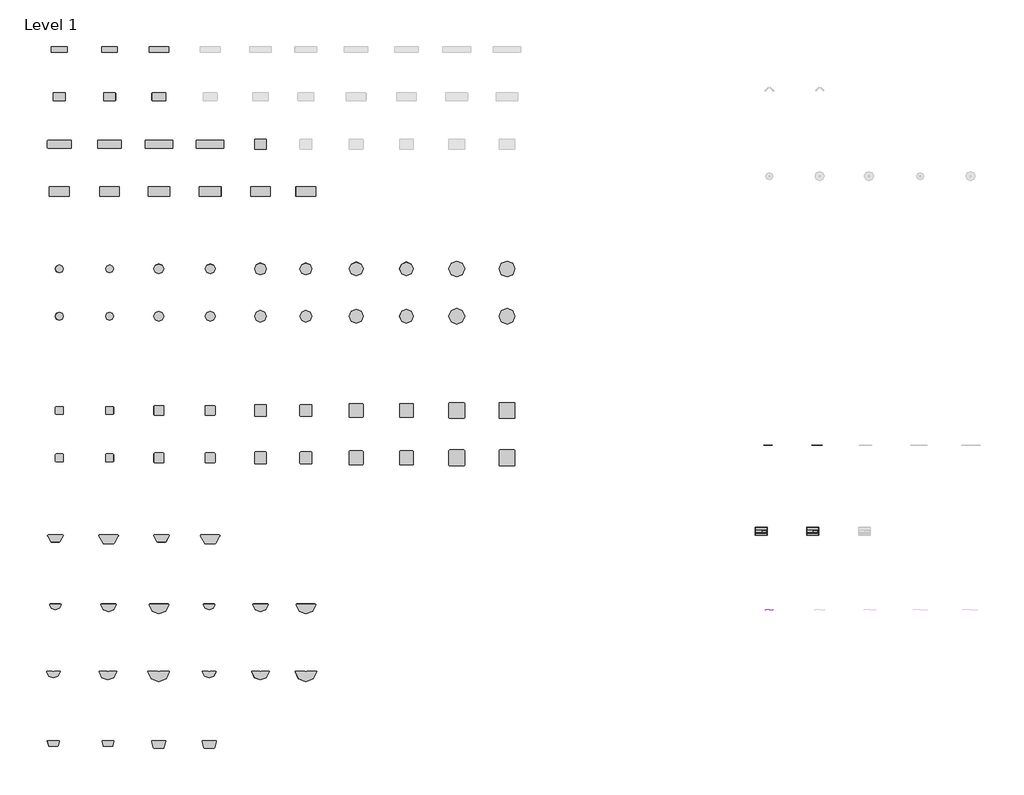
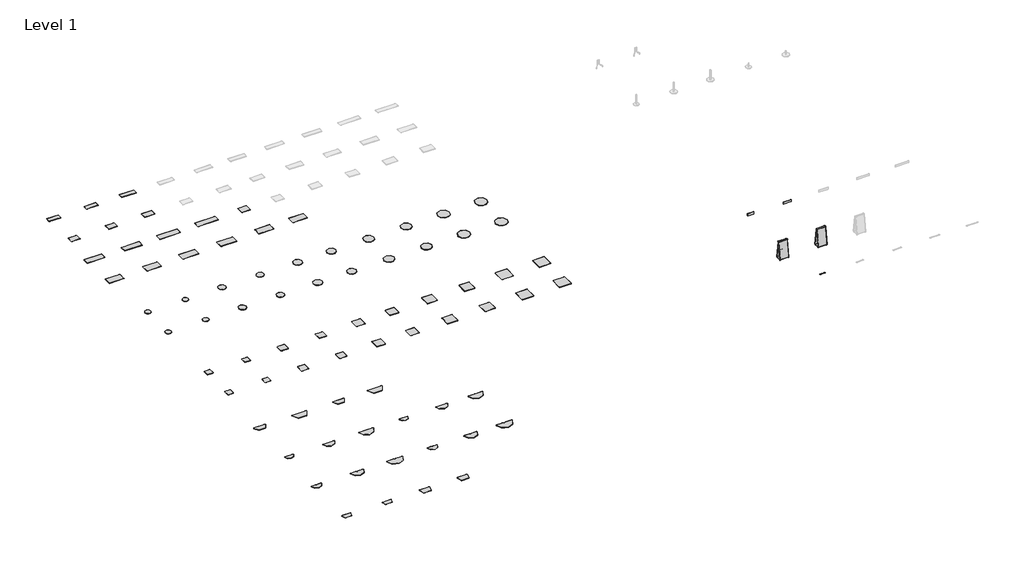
# One storey, part 1 of 2: 82 furniture elements.
"""IFC4 building model written with IfcOpenShell, lengths in millimetres."""

from ifc_helpers import new_model, si_unit, origin, place, context, project, spatial, transform, mapped, element, save
from components import furniture_22a0fb12, furniture_dde260d6, furniture_15fa902d, furniture_0da8b664, furniture_ad01e5af, furniture_995549ce, furniture_02dcd6cb, furniture_3c9f8f3f, furniture_cd082a74, furniture_e3076a92, furniture_453c43cd, furniture_d2ee572e, furniture_9cbd6c0b, furniture_f40bed82, furniture_707d9fb9, furniture_5754c508, furniture_3a9b2a28, furniture_975a626c, furniture_00c87b9d, furniture_1_1_8thickness_24_w_lpl_78b4d6fc, furniture_1_1_8thickness_30w_hpl_c077e206, furniture_1_1_8thickness_36w_hpl_82e7e8d1, furniture_1_1_8thickness_42_w_lpl_af455e16, furniture_1_1_8thickness_48w_hpl_af9b5860, furniture_1_1_8thickness_x_24dia_hpl_15a3ba9e, furniture_1_1_8thickness_x_30dia_hpl_ab5fbdb1, furniture_1_1_8thickness_x_36dia_hpl_6dad2c2d, furniture_1_1_8thickness_x_42dia_hpl_65cc382c, furniture_1_1_8thickness_x_48dia_hpl_ef60ed02, furniture_1_3_8thickness_24w_hpl_7b9c1fa5, furniture_1_3_8thickness_30w_hpl_81533f82, furniture_1_3_8thickness_36w_hpl_a2e24731, furniture_1_3_8thickness_42w_hpl_310ea54f, furniture_1_3_8thickness_48w_hpl_64231320, furniture_1_3_8thickness_x_24dia_hpl_9d86332b, furniture_1_3_8thickness_x_30dia_hpl_53064dcf, furniture_1_3_8thickness_x_36dia_hpl_1ba58830, furniture_1_3_8thickness_x_42dia_hpl_e79e7d92, furniture_1_3_8thickness_x_48dia_hpl_3c3fdf40, furniture_24w_8317a860, furniture_25_5_8w_bb100e75, furniture_31_5_8w_bd3e6728, markerboard_both_sides_742e3653

model = new_model("IFC4")

# Units and contexts
model_context = context("Model", 3, world=origin())
ifc_project = project(units=[si_unit("LENGTHUNIT", "METRE", prefix="MILLI")], contexts=[model_context])

# Site, building, storey
site = spatial("IfcSite", under=ifc_project)
building = spatial("IfcBuilding", under=site)
storey = spatial("IfcBuildingStorey", under=building, Name="Level 1", Elevation=0.0)

# Furniture
placement = place(None, origin())
furniture_shape = furniture_22a0fb12(model_context)
element("IfcFurniture", 1, ObjectType="Steelcase - Groupwork - Table - Top - Rectangular : 30D x 60W - LPL", at=placement, inside=storey, context=model_context, shape_type="MappedRepresentation", body=[
    mapped(furniture_shape, transform((778078.7766429, -27868.2236672, 0.0), x_axis=(1.0, 0.0, 0.0), y_axis=(0.0, 1.0, 0.0), z_axis=(0.0, 0.0, 1.0))),
])
element("IfcFurniture", 2, ObjectType="Steelcase - Groupwork - Table - Top - Rectangular : 30D x 60W - HPL", at=placement, inside=storey, context=model_context, shape_type="MappedRepresentation", body=[
    mapped(furniture_shape, transform((774192.5766429, -27868.2236672, 0.0), x_axis=(1.0, 0.0, 0.0), y_axis=(0.0, 1.0, 0.0), z_axis=(0.0, 0.0, 1.0))),
])
furniture_2_shape = furniture_dde260d6(model_context)
element("IfcFurniture", 3, ObjectType="Steelcase - Groupwork - Table - Top - Rectangular : 18D x 48W - HPL", at=placement, inside=storey, context=model_context, shape_type="MappedRepresentation", body=[
    mapped(furniture_2_shape, transform((774192.5766429, -16895.4236672, 0.0), x_axis=(1.0, 0.0, 0.0), y_axis=(0.0, 1.0, 0.0), z_axis=(0.0, 0.0, 1.0))),
])
furniture_3_shape = furniture_15fa902d(model_context)
element("IfcFurniture", 4, ObjectType="Steelcase - Groupwork - Table - Top - Rectangular : 18D x 60W - HPL", at=placement, inside=storey, context=model_context, shape_type="MappedRepresentation", body=[
    mapped(furniture_3_shape, transform((781888.7766429, -16895.4236672, 0.0), x_axis=(1.0, 0.0, 0.0), y_axis=(0.0, 1.0, 0.0), z_axis=(0.0, 0.0, 1.0))),
])
furniture_4_shape = furniture_0da8b664(model_context)
element("IfcFurniture", 5, ObjectType="Steelcase - Groupwork - Table - Top - Rectangular : 24D x 36W - HPL", at=placement, inside=storey, context=model_context, shape_type="MappedRepresentation", body=[
    mapped(furniture_4_shape, transform((774192.5766429, -20553.0236672, 0.0), x_axis=(1.0, 0.0, 0.0), y_axis=(0.0, 1.0, 0.0), z_axis=(0.0, 0.0, 1.0))),
])
furniture_5_shape = furniture_ad01e5af(model_context)
element("IfcFurniture", 6, ObjectType="Steelcase - Groupwork - Table - Top - Rectangular : 24D x 42W - HPL", at=placement, inside=storey, context=model_context, shape_type="MappedRepresentation", body=[
    mapped(furniture_5_shape, transform((781888.7766429, -20553.0236672, 0.0), x_axis=(1.0, 0.0, 0.0), y_axis=(0.0, 1.0, 0.0), z_axis=(0.0, 0.0, 1.0))),
])
furniture_6_shape = furniture_995549ce(model_context)
element("IfcFurniture", 7, ObjectType="Steelcase - Groupwork - Table - Top - Rectangular : 24D x 72W - HPL", at=placement, inside=storey, context=model_context, shape_type="MappedRepresentation", body=[
    mapped(furniture_6_shape, transform((774192.5766429, -24210.6236672, 0.0), x_axis=(1.0, 0.0, 0.0), y_axis=(0.0, 1.0, 0.0), z_axis=(0.0, 0.0, 1.0))),
])
furniture_7_shape = furniture_02dcd6cb(model_context)
element("IfcFurniture", 8, ObjectType="Steelcase - Groupwork - Table - Top - Rectangular : 24D x 84W - HPL", at=placement, inside=storey, context=model_context, shape_type="MappedRepresentation", body=[
    mapped(furniture_7_shape, transform((781888.7766429, -24210.6236672, 0.0), x_axis=(1.0, 0.0, 0.0), y_axis=(0.0, 1.0, 0.0), z_axis=(0.0, 0.0, 1.0))),
])
furniture_8_shape = furniture_3c9f8f3f(model_context)
element("IfcFurniture", 9, ObjectType="Steelcase - Groupwork - Table - Top - Rectangular : 30D x 66W - HPL", at=placement, inside=storey, context=model_context, shape_type="MappedRepresentation", body=[
    mapped(furniture_8_shape, transform((781888.7766429, -27868.2236672, 0.0), x_axis=(1.0, 0.0, 0.0), y_axis=(0.0, 1.0, 0.0), z_axis=(0.0, 0.0, 1.0))),
])
element("IfcFurniture", 10, ObjectType="Steelcase - Groupwork - Table - Top - Rectangular : 30D x 72W - HPL", at=placement, inside=storey, context=model_context, shape_type="MappedRepresentation", body=[
    mapped(furniture_shape, transform((789737.3766429, -27868.2236672, 0.0), x_axis=(1.0, 0.0, 0.0), y_axis=(0.0, 1.0, 0.0), z_axis=(0.0, 0.0, 1.0))),
])
element("IfcFurniture", 11, ObjectType="Steelcase - Groupwork - Table - Top - Rectangular : 18D x 48W - LPL", at=placement, inside=storey, context=model_context, shape_type="MappedRepresentation", body=[
    mapped(furniture_2_shape, transform((778078.7766429, -16895.4236672, 0.0), x_axis=(1.0, 0.0, 0.0), y_axis=(0.0, 1.0, 0.0), z_axis=(0.0, 0.0, 1.0))),
])
element("IfcFurniture", 12, ObjectType="Steelcase - Groupwork - Table - Top - Rectangular : 24D x 36W - LPL", at=placement, inside=storey, context=model_context, shape_type="MappedRepresentation", body=[
    mapped(furniture_4_shape, transform((778078.7766429, -20553.0236672, 0.0), x_axis=(1.0, 0.0, 0.0), y_axis=(0.0, 1.0, 0.0), z_axis=(0.0, 0.0, 1.0))),
])
element("IfcFurniture", 13, ObjectType="Steelcase - Groupwork - Table - Top - Rectangular : 24D x 72W - LPL", at=placement, inside=storey, context=model_context, shape_type="MappedRepresentation", body=[
    mapped(furniture_6_shape, transform((778078.7766429, -24210.6236672, 0.0), x_axis=(1.0, 0.0, 0.0), y_axis=(0.0, 1.0, 0.0), z_axis=(0.0, 0.0, 1.0))),
])
element("IfcFurniture", 14, ObjectType="Steelcase - Groupwork - Table - Top - Rectangular : 24D x 84W - LPL", at=placement, inside=storey, context=model_context, shape_type="MappedRepresentation", body=[
    mapped(furniture_7_shape, transform((785851.1766429, -24210.6236672, 0.0), x_axis=(1.0, 0.0, 0.0), y_axis=(0.0, 1.0, 0.0), z_axis=(0.0, 0.0, 1.0))),
])
element("IfcFurniture", 15, ObjectType="Steelcase - Groupwork - Table - Top - Rectangular : 30D x 66W - LPL", at=placement, inside=storey, context=model_context, shape_type="MappedRepresentation", body=[
    mapped(furniture_8_shape, transform((785851.1766429, -27868.2236672, 0.0), x_axis=(1.0, 0.0, 0.0), y_axis=(0.0, 1.0, 0.0), z_axis=(0.0, 0.0, 1.0))),
])
element("IfcFurniture", 16, ObjectType="Steelcase - Groupwork - Table - Top - Rectangular : 30D x 72W - LPL", at=placement, inside=storey, context=model_context, shape_type="MappedRepresentation", body=[
    mapped(furniture_shape, transform((793242.5766429, -27868.2236672, 0.0), x_axis=(1.0, 0.0, 0.0), y_axis=(0.0, 1.0, 0.0), z_axis=(0.0, 0.0, 1.0))),
])
furniture_9_shape = furniture_cd082a74(model_context)
element("IfcFurniture", 17, ObjectType="Steelcase - Groupwork - Table - Top - Rectangular : 30D x 36W - HPL", at=placement, inside=storey, context=model_context, shape_type="MappedRepresentation", body=[
    mapped(furniture_9_shape, transform((789737.3766429, -24210.6236672, 0.0), x_axis=(1.0, 0.0, 0.0), y_axis=(0.0, 1.0, 0.0), z_axis=(0.0, 0.0, 1.0))),
])
furniture_10_shape = furniture_e3076a92(model_context)
element("IfcFurniture", 18, ObjectType="Steelcase - Groupwork - Table - Top - Trapezoid : 21 3/8D x 48W - LPL", at=placement, inside=storey, context=model_context, shape_type="MappedRepresentation", body=[
    mapped(furniture_10_shape, transform((773249.7766429, -54403.2858647, 0.0), x_axis=(1.0, 0.0, 0.0), y_axis=(0.0, 1.0, 0.0), z_axis=(0.0, 0.0, 1.0))),
])
furniture_11_shape = furniture_453c43cd(model_context)
element("IfcFurniture", 19, ObjectType="Steelcase - Groupwork - Table - Top - Trapezoid : 26 1/2D x 60W - LPL", at=placement, inside=storey, context=model_context, shape_type="MappedRepresentation", body=[
    mapped(furniture_11_shape, transform((777212.1766429, -54403.2858647, 0.0), x_axis=(1.0, 0.0, 0.0), y_axis=(0.0, 1.0, 0.0), z_axis=(0.0, 0.0, 1.0))),
])
furniture_12_shape = furniture_d2ee572e(model_context)
element("IfcFurniture", 20, ObjectType="Steelcase - Groupwork - Table - Top - Half Round with Cutout : 27D x 54W - LPL", at=placement, inside=storey, context=model_context, shape_type="MappedRepresentation", body=[
    mapped(furniture_12_shape, transform((777920.2124075, -64918.8858647, 0.0), x_axis=(1.0, 0.0, 0.0), y_axis=(0.0, 1.0, 0.0), z_axis=(0.0, 0.0, 1.0))),
])
furniture_13_shape = furniture_9cbd6c0b(model_context)
element("IfcFurniture", 21, ObjectType="Steelcase - Groupwork - Table - Top - Half Round with Cutout : 21D x 42W - LPL", at=placement, inside=storey, context=model_context, shape_type="MappedRepresentation", body=[
    mapped(furniture_13_shape, transform((773706.9766429, -64918.8858647, 0.0), x_axis=(1.0, 0.0, 0.0), y_axis=(0.0, 1.0, 0.0), z_axis=(0.0, 0.0, 1.0))),
])
furniture_14_shape = furniture_f40bed82(model_context)
element("IfcFurniture", 22, ObjectType="Steelcase - Groupwork - Table - Top - Half Round with Cutout : 33D x 66W - LPL", at=placement, inside=storey, context=model_context, shape_type="MappedRepresentation", body=[
    mapped(furniture_14_shape, transform((781841.4107899, -64918.8858647, 0.0), x_axis=(1.0, 0.0, 0.0), y_axis=(0.0, 1.0, 0.0), z_axis=(0.0, 0.0, 1.0))),
])
element("IfcFurniture", 23, ObjectType="Steelcase - Groupwork - Table - Top - Trapezoid : 26 1/2D x 60W - HPL", at=placement, inside=storey, context=model_context, shape_type="MappedRepresentation", body=[
    mapped(furniture_11_shape, transform((785057.3804905, -54403.2858647, 0.0), x_axis=(1.0, 0.0, 0.0), y_axis=(0.0, 1.0, 0.0), z_axis=(0.0, 0.0, 1.0))),
])
element("IfcFurniture", 24, ObjectType="Steelcase - Groupwork - Table - Top - Trapezoid : 21 3/8D x 48W - HPL", at=placement, inside=storey, context=model_context, shape_type="MappedRepresentation", body=[
    mapped(furniture_10_shape, transform((781445.4075553, -54403.2858647, 0.0), x_axis=(1.0, 0.0, 0.0), y_axis=(0.0, 1.0, 0.0), z_axis=(0.0, 0.0, 1.0))),
])
furniture_15_shape = furniture_707d9fb9(model_context)
element("IfcFurniture", 25, ObjectType="Steelcase - Groupwork - Table - Top - Half Round : 30D x 60W - LPL", at=placement, inside=storey, context=model_context, shape_type="MappedRepresentation", body=[
    mapped(furniture_15_shape, transform((793214.1766429, -59740.3338647, 0.0), x_axis=(1.0, 0.0, 0.0), y_axis=(0.0, 1.0, 0.0), z_axis=(0.0, 0.0, 1.0))),
])
furniture_16_shape = furniture_5754c508(model_context)
element("IfcFurniture", 26, ObjectType="Steelcase - Groupwork - Table - Top - Half Round : 24D x 48W - LPL", at=placement, inside=storey, context=model_context, shape_type="MappedRepresentation", body=[
    mapped(furniture_16_shape, transform((789708.9766429, -59740.3338647, 0.0), x_axis=(1.0, 0.0, 0.0), y_axis=(0.0, 1.0, 0.0), z_axis=(0.0, 0.0, 1.0))),
])
furniture_17_shape = furniture_3a9b2a28(model_context)
element("IfcFurniture", 27, ObjectType="Steelcase - Groupwork - Table - Top - Half Round : 18D x 36W - LPL", at=placement, inside=storey, context=model_context, shape_type="MappedRepresentation", body=[
    mapped(furniture_17_shape, transform((785746.5766429, -59740.3338647, 0.0), x_axis=(1.0, 0.0, 0.0), y_axis=(0.0, 1.0, 0.0), z_axis=(0.0, 0.0, 1.0))),
])
element("IfcFurniture", 28, ObjectType="Steelcase - Groupwork - Table - Top - Half Round with Cutout : 33D x 66W - HPL", at=placement, inside=storey, context=model_context, shape_type="MappedRepresentation", body=[
    mapped(furniture_14_shape, transform((793214.1766429, -64918.8858647, 0.0), x_axis=(1.0, 0.0, 0.0), y_axis=(0.0, 1.0, 0.0), z_axis=(0.0, 0.0, 1.0))),
])
element("IfcFurniture", 29, ObjectType="Steelcase - Groupwork - Table - Top - Half Round with Cutout : 27D x 54W - HPL", at=placement, inside=storey, context=model_context, shape_type="MappedRepresentation", body=[
    mapped(furniture_12_shape, transform((789708.9766429, -64918.8858647, 0.0), x_axis=(1.0, 0.0, 0.0), y_axis=(0.0, 1.0, 0.0), z_axis=(0.0, 0.0, 1.0))),
])
element("IfcFurniture", 30, ObjectType="Steelcase - Groupwork - Table - Top - Half Round with Cutout : 21D x 42W - HPL", at=placement, inside=storey, context=model_context, shape_type="MappedRepresentation", body=[
    mapped(furniture_13_shape, transform((785746.5766429, -64918.8858647, 0.0), x_axis=(1.0, 0.0, 0.0), y_axis=(0.0, 1.0, 0.0), z_axis=(0.0, 0.0, 1.0))),
])
furniture_18_shape = furniture_975a626c(model_context)
element("IfcFurniture", 31, ObjectType="Steelcase - Groupwork - Table - Top - Personal : 24D x 42W - HPL", at=placement, inside=storey, context=model_context, shape_type="MappedRepresentation", body=[
    mapped(furniture_18_shape, transform((781306.5489354, -70252.8858647, 0.0), x_axis=(1.0, 0.0, 0.0), y_axis=(0.0, 1.0, 0.0), z_axis=(0.0, 0.0, 1.0))),
])
furniture_19_shape = furniture_00c87b9d(model_context)
element("IfcFurniture", 32, ObjectType="Steelcase - Groupwork - Table - Top - Personal : 18D x 36W - HPL", at=placement, inside=storey, context=model_context, shape_type="MappedRepresentation", body=[
    mapped(furniture_19_shape, transform((773172.1147884, -70252.8858647, 0.0), x_axis=(1.0, 0.0, 0.0), y_axis=(0.0, 1.0, 0.0), z_axis=(0.0, 0.0, 1.0))),
])
element("IfcFurniture", 33, ObjectType="Steelcase - Groupwork - Table - Top - Personal : 24D x 42W - LPL", at=placement, inside=storey, context=model_context, shape_type="MappedRepresentation", body=[
    mapped(furniture_18_shape, transform((785211.7147884, -70252.8858647, 0.0), x_axis=(1.0, 0.0, 0.0), y_axis=(0.0, 1.0, 0.0), z_axis=(0.0, 0.0, 1.0))),
])
element("IfcFurniture", 34, ObjectType="Steelcase - Groupwork - Table - Top - Personal : 18D x 36W - LPL", at=placement, inside=storey, context=model_context, shape_type="MappedRepresentation", body=[
    mapped(furniture_19_shape, transform((777385.350553, -70252.8858647, 0.0), x_axis=(1.0, 0.0, 0.0), y_axis=(0.0, 1.0, 0.0), z_axis=(0.0, 0.0, 1.0))),
])
element("IfcFurniture", 35, ObjectType="Steelcase - Groupwork - Table - Top - Half Round : 18D x 36W - HPL", at=placement, inside=storey, context=model_context, shape_type="MappedRepresentation", body=[
    mapped(furniture_17_shape, transform((773859.3766429, -59740.3338647, 0.0), x_axis=(1.0, 0.0, 0.0), y_axis=(0.0, 1.0, 0.0), z_axis=(0.0, 0.0, 1.0))),
])
element("IfcFurniture", 36, ObjectType="Steelcase - Groupwork - Table - Top - Half Round : 24D x 48W - HPL", at=placement, inside=storey, context=model_context, shape_type="MappedRepresentation", body=[
    mapped(furniture_16_shape, transform((777974.1766429, -59740.3338647, 0.0), x_axis=(1.0, 0.0, 0.0), y_axis=(0.0, 1.0, 0.0), z_axis=(0.0, 0.0, 1.0))),
])
element("IfcFurniture", 37, ObjectType="Steelcase - Groupwork - Table - Top - Half Round : 30D x 60W - HPL", at=placement, inside=storey, context=model_context, shape_type="MappedRepresentation", body=[
    mapped(furniture_15_shape, transform((781860.3766429, -59740.3338647, 0.0), x_axis=(1.0, 0.0, 0.0), y_axis=(0.0, 1.0, 0.0), z_axis=(0.0, 0.0, 1.0))),
])
furniture_1_1_8thickness_24_w_lpl_shape = furniture_1_1_8thickness_24_w_lpl_78b4d6fc(model_context)
element("IfcFurniture", 38, ObjectType="Steelcase - Groupwork - Table - Top - Square : 1 1/8Thickness - 24 W - LPL", at=placement, inside=storey, context=model_context, shape_type="MappedRepresentation", body=[
    mapped(furniture_1_1_8thickness_24_w_lpl_shape, transform((778078.7766429, -44788.7229199, 0.0), x_axis=(1.0, 0.0, 0.0), y_axis=(0.0, 1.0, 0.0), z_axis=(0.0, 0.0, 1.0))),
])
element("IfcFurniture", 39, ObjectType="Steelcase - Groupwork - Table - Top - Square : 1 1/8Thickness - 24W - HPL", at=placement, inside=storey, context=model_context, shape_type="MappedRepresentation", body=[
    mapped(furniture_1_1_8thickness_24_w_lpl_shape, transform((774192.5766429, -44788.7229199, 0.0), x_axis=(1.0, 0.0, 0.0), y_axis=(0.0, 1.0, 0.0), z_axis=(0.0, 0.0, 1.0))),
])
furniture_1_1_8thickness_30w_hpl_shape = furniture_1_1_8thickness_30w_hpl_c077e206(model_context)
element("IfcFurniture", 40, ObjectType="Steelcase - Groupwork - Table - Top - Square : 1 1/8Thickness - 30W - HPL", at=placement, inside=storey, context=model_context, shape_type="MappedRepresentation", body=[
    mapped(furniture_1_1_8thickness_30w_hpl_shape, transform((781888.7766429, -44788.7229199, 0.0), x_axis=(1.0, 0.0, 0.0), y_axis=(0.0, 1.0, 0.0), z_axis=(0.0, 0.0, 1.0))),
])
element("IfcFurniture", 41, ObjectType="Steelcase - Groupwork - Table - Top - Square : 1 1/8Thickness - 30W - LPL", at=placement, inside=storey, context=model_context, shape_type="MappedRepresentation", body=[
    mapped(furniture_1_1_8thickness_30w_hpl_shape, transform((785851.1766429, -44788.7229199, 0.0), x_axis=(1.0, 0.0, 0.0), y_axis=(0.0, 1.0, 0.0), z_axis=(0.0, 0.0, 1.0))),
])
furniture_1_1_8thickness_36w_hpl_shape = furniture_1_1_8thickness_36w_hpl_82e7e8d1(model_context)
element("IfcFurniture", 42, ObjectType="Steelcase - Groupwork - Table - Top - Square : 1 1/8Thickness - 36W - HPL", at=placement, inside=storey, context=model_context, shape_type="MappedRepresentation", body=[
    mapped(furniture_1_1_8thickness_36w_hpl_shape, transform((789737.3766429, -44788.7229199, 0.0), x_axis=(1.0, 0.0, 0.0), y_axis=(0.0, 1.0, 0.0), z_axis=(0.0, 0.0, 1.0))),
])
element("IfcFurniture", 43, ObjectType="Steelcase - Groupwork - Table - Top - Square : 1 1/8Thickness - 36W - LPL", at=placement, inside=storey, context=model_context, shape_type="MappedRepresentation", body=[
    mapped(furniture_1_1_8thickness_36w_hpl_shape, transform((793242.5766429, -44788.7229199, 0.0), x_axis=(1.0, 0.0, 0.0), y_axis=(0.0, 1.0, 0.0), z_axis=(0.0, 0.0, 1.0))),
])
furniture_1_1_8thickness_42_w_lpl_shape = furniture_1_1_8thickness_42_w_lpl_af455e16(model_context)
element("IfcFurniture", 44, ObjectType="Steelcase - Groupwork - Table - Top - Square : 1 1/8Thickness - 42 W - LPL", at=placement, inside=storey, context=model_context, shape_type="MappedRepresentation", body=[
    mapped(furniture_1_1_8thickness_42_w_lpl_shape, transform((801014.9766429, -44788.7229199, 0.0), x_axis=(1.0, 0.0, 0.0), y_axis=(0.0, 1.0, 0.0), z_axis=(0.0, 0.0, 1.0))),
])
element("IfcFurniture", 45, ObjectType="Steelcase - Groupwork - Table - Top - Square : 1 1/8Thickness - 42W - HPL", at=placement, inside=storey, context=model_context, shape_type="MappedRepresentation", body=[
    mapped(furniture_1_1_8thickness_42_w_lpl_shape, transform((797128.7766429, -44788.7229199, 0.0), x_axis=(1.0, 0.0, 0.0), y_axis=(0.0, 1.0, 0.0), z_axis=(0.0, 0.0, 1.0))),
])
furniture_1_1_8thickness_48w_hpl_shape = furniture_1_1_8thickness_48w_hpl_af9b5860(model_context)
element("IfcFurniture", 46, ObjectType="Steelcase - Groupwork - Table - Top - Square : 1 1/8Thickness - 48W - HPL", at=placement, inside=storey, context=model_context, shape_type="MappedRepresentation", body=[
    mapped(furniture_1_1_8thickness_48w_hpl_shape, transform((804901.1766429, -44788.7229199, 0.0), x_axis=(1.0, 0.0, 0.0), y_axis=(0.0, 1.0, 0.0), z_axis=(0.0, 0.0, 1.0))),
])
element("IfcFurniture", 47, ObjectType="Steelcase - Groupwork - Table - Top - Square : 1 1/8Thickness - 48W - LPL", at=placement, inside=storey, context=model_context, shape_type="MappedRepresentation", body=[
    mapped(furniture_1_1_8thickness_48w_hpl_shape, transform((808787.3766429, -44788.7229199, 0.0), x_axis=(1.0, 0.0, 0.0), y_axis=(0.0, 1.0, 0.0), z_axis=(0.0, 0.0, 1.0))),
])
furniture_1_1_8thickness_x_24dia_hpl_shape = furniture_1_1_8thickness_x_24dia_hpl_15a3ba9e(model_context)
element("IfcFurniture", 48, ObjectType="Steelcase - Groupwork - Table - Top - Round : 1 1/8Thickness x 24dia - HPL", at=placement, inside=storey, context=model_context, shape_type="MappedRepresentation", body=[
    mapped(furniture_1_1_8thickness_x_24dia_hpl_shape, transform((774164.1766429, -33850.4492936, 0.0), x_axis=(1.0, 0.0, 0.0), y_axis=(0.0, 1.0, 0.0), z_axis=(0.0, 0.0, 1.0))),
])
element("IfcFurniture", 49, ObjectType="Steelcase - Groupwork - Table - Top - Round : 1 1/8Thickness x 24dia - LPL", at=placement, inside=storey, context=model_context, shape_type="MappedRepresentation", body=[
    mapped(furniture_1_1_8thickness_x_24dia_hpl_shape, transform((778050.3766429, -33850.4492936, 0.0), x_axis=(1.0, 0.0, 0.0), y_axis=(0.0, 1.0, 0.0), z_axis=(0.0, 0.0, 1.0))),
])
furniture_1_1_8thickness_x_30dia_hpl_shape = furniture_1_1_8thickness_x_30dia_hpl_ab5fbdb1(model_context)
element("IfcFurniture", 50, ObjectType="Steelcase - Groupwork - Table - Top - Round : 1 1/8Thickness x 30dia - HPL", at=placement, inside=storey, context=model_context, shape_type="MappedRepresentation", body=[
    mapped(furniture_1_1_8thickness_x_30dia_hpl_shape, transform((781860.3766429, -33850.4492936, 0.0), x_axis=(1.0, 0.0, 0.0), y_axis=(0.0, 1.0, 0.0), z_axis=(0.0, 0.0, 1.0))),
])
element("IfcFurniture", 51, ObjectType="Steelcase - Groupwork - Table - Top - Round : 1 1/8Thickness x 30dia - LPL", at=placement, inside=storey, context=model_context, shape_type="MappedRepresentation", body=[
    mapped(furniture_1_1_8thickness_x_30dia_hpl_shape, transform((785822.7766429, -33850.4492936, 0.0), x_axis=(1.0, 0.0, 0.0), y_axis=(0.0, 1.0, 0.0), z_axis=(0.0, 0.0, 1.0))),
])
furniture_1_1_8thickness_x_36dia_hpl_shape = furniture_1_1_8thickness_x_36dia_hpl_6dad2c2d(model_context)
element("IfcFurniture", 52, ObjectType="Steelcase - Groupwork - Table - Top - Round : 1 1/8Thickness x 36dia - HPL", at=placement, inside=storey, context=model_context, shape_type="MappedRepresentation", body=[
    mapped(furniture_1_1_8thickness_x_36dia_hpl_shape, transform((789708.9766429, -33850.4492936, 0.0), x_axis=(1.0, 0.0, 0.0), y_axis=(0.0, 1.0, 0.0), z_axis=(0.0, 0.0, 1.0))),
])
element("IfcFurniture", 53, ObjectType="Steelcase - Groupwork - Table - Top - Round : 1 1/8Thickness x 36dia - LPL", at=placement, inside=storey, context=model_context, shape_type="MappedRepresentation", body=[
    mapped(furniture_1_1_8thickness_x_36dia_hpl_shape, transform((793214.1766429, -33850.4492936, 0.0), x_axis=(1.0, 0.0, 0.0), y_axis=(0.0, 1.0, 0.0), z_axis=(0.0, 0.0, 1.0))),
])
furniture_1_1_8thickness_x_42dia_hpl_shape = furniture_1_1_8thickness_x_42dia_hpl_65cc382c(model_context)
element("IfcFurniture", 54, ObjectType="Steelcase - Groupwork - Table - Top - Round : 1 1/8Thickness x 42dia - HPL", at=placement, inside=storey, context=model_context, shape_type="MappedRepresentation", body=[
    mapped(furniture_1_1_8thickness_x_42dia_hpl_shape, transform((797100.3766429, -33850.4492936, 0.0), x_axis=(1.0, 0.0, 0.0), y_axis=(0.0, 1.0, 0.0), z_axis=(0.0, 0.0, 1.0))),
])
element("IfcFurniture", 55, ObjectType="Steelcase - Groupwork - Table - Top - Round : 1 1/8Thickness x 42dia - LPL", at=placement, inside=storey, context=model_context, shape_type="MappedRepresentation", body=[
    mapped(furniture_1_1_8thickness_x_42dia_hpl_shape, transform((800986.5766429, -33850.4492936, 0.0), x_axis=(1.0, 0.0, 0.0), y_axis=(0.0, 1.0, 0.0), z_axis=(0.0, 0.0, 1.0))),
])
furniture_1_1_8thickness_x_48dia_hpl_shape = furniture_1_1_8thickness_x_48dia_hpl_ef60ed02(model_context)
element("IfcFurniture", 56, ObjectType="Steelcase - Groupwork - Table - Top - Round : 1 1/8Thickness x 48dia - HPL", at=placement, inside=storey, context=model_context, shape_type="MappedRepresentation", body=[
    mapped(furniture_1_1_8thickness_x_48dia_hpl_shape, transform((804872.7766429, -33850.4492936, 0.0), x_axis=(1.0, 0.0, 0.0), y_axis=(0.0, 1.0, 0.0), z_axis=(0.0, 0.0, 1.0))),
])
element("IfcFurniture", 57, ObjectType="Steelcase - Groupwork - Table - Top - Round : 1 1/8Thickness x 48dia - LPL", at=placement, inside=storey, context=model_context, shape_type="MappedRepresentation", body=[
    mapped(furniture_1_1_8thickness_x_48dia_hpl_shape, transform((808758.9766429, -33850.4492936, 0.0), x_axis=(1.0, 0.0, 0.0), y_axis=(0.0, 1.0, 0.0), z_axis=(0.0, 0.0, 1.0))),
])
furniture_1_3_8thickness_24w_hpl_shape = furniture_1_3_8thickness_24w_hpl_7b9c1fa5(model_context)
element("IfcFurniture", 58, ObjectType="Steelcase - Groupwork - Table - Top - Square : 1 3/8Thickness - 24W - HPL", at=placement, inside=storey, context=model_context, shape_type="MappedRepresentation", body=[
    mapped(furniture_1_3_8thickness_24w_hpl_shape, transform((774192.5766429, -48446.3229199, 0.0), x_axis=(1.0, 0.0, 0.0), y_axis=(0.0, 1.0, 0.0), z_axis=(0.0, 0.0, 1.0))),
])
element("IfcFurniture", 59, ObjectType="Steelcase - Groupwork - Table - Top - Square : 1 3/8Thickness - 24W - LPL", at=placement, inside=storey, context=model_context, shape_type="MappedRepresentation", body=[
    mapped(furniture_1_3_8thickness_24w_hpl_shape, transform((778078.7766429, -48446.3229199, 0.0), x_axis=(1.0, 0.0, 0.0), y_axis=(0.0, 1.0, 0.0), z_axis=(0.0, 0.0, 1.0))),
])
furniture_1_3_8thickness_30w_hpl_shape = furniture_1_3_8thickness_30w_hpl_81533f82(model_context)
element("IfcFurniture", 60, ObjectType="Steelcase - Groupwork - Table - Top - Square : 1 3/8Thickness - 30W - HPL", at=placement, inside=storey, context=model_context, shape_type="MappedRepresentation", body=[
    mapped(furniture_1_3_8thickness_30w_hpl_shape, transform((781888.7766429, -48446.3229199, 0.0), x_axis=(1.0, 0.0, 0.0), y_axis=(0.0, 1.0, 0.0), z_axis=(0.0, 0.0, 1.0))),
])
element("IfcFurniture", 61, ObjectType="Steelcase - Groupwork - Table - Top - Square : 1 3/8Thickness - 30W - LPL", at=placement, inside=storey, context=model_context, shape_type="MappedRepresentation", body=[
    mapped(furniture_1_3_8thickness_30w_hpl_shape, transform((785851.1766429, -48446.3229199, 0.0), x_axis=(1.0, 0.0, 0.0), y_axis=(0.0, 1.0, 0.0), z_axis=(0.0, 0.0, 1.0))),
])
furniture_1_3_8thickness_36w_hpl_shape = furniture_1_3_8thickness_36w_hpl_a2e24731(model_context)
element("IfcFurniture", 62, ObjectType="Steelcase - Groupwork - Table - Top - Square : 1 3/8Thickness - 36W - HPL", at=placement, inside=storey, context=model_context, shape_type="MappedRepresentation", body=[
    mapped(furniture_1_3_8thickness_36w_hpl_shape, transform((789737.3766429, -48446.3229199, 0.0), x_axis=(1.0, 0.0, 0.0), y_axis=(0.0, 1.0, 0.0), z_axis=(0.0, 0.0, 1.0))),
])
element("IfcFurniture", 63, ObjectType="Steelcase - Groupwork - Table - Top - Square : 1 3/8Thickness - 36W - LPL", at=placement, inside=storey, context=model_context, shape_type="MappedRepresentation", body=[
    mapped(furniture_1_3_8thickness_36w_hpl_shape, transform((793242.5766429, -48446.3229199, 0.0), x_axis=(1.0, 0.0, 0.0), y_axis=(0.0, 1.0, 0.0), z_axis=(0.0, 0.0, 1.0))),
])
furniture_1_3_8thickness_42w_hpl_shape = furniture_1_3_8thickness_42w_hpl_310ea54f(model_context)
element("IfcFurniture", 64, ObjectType="Steelcase - Groupwork - Table - Top - Square : 1 3/8Thickness - 42W - HPL", at=placement, inside=storey, context=model_context, shape_type="MappedRepresentation", body=[
    mapped(furniture_1_3_8thickness_42w_hpl_shape, transform((797128.7766429, -48446.3229199, 0.0), x_axis=(1.0, 0.0, 0.0), y_axis=(0.0, 1.0, 0.0), z_axis=(0.0, 0.0, 1.0))),
])
element("IfcFurniture", 65, ObjectType="Steelcase - Groupwork - Table - Top - Square : 1 3/8Thickness - 42W - LPL", at=placement, inside=storey, context=model_context, shape_type="MappedRepresentation", body=[
    mapped(furniture_1_3_8thickness_42w_hpl_shape, transform((801014.9766429, -48446.3229199, 0.0), x_axis=(1.0, 0.0, 0.0), y_axis=(0.0, 1.0, 0.0), z_axis=(0.0, 0.0, 1.0))),
])
furniture_1_3_8thickness_48w_hpl_shape = furniture_1_3_8thickness_48w_hpl_64231320(model_context)
element("IfcFurniture", 66, ObjectType="Steelcase - Groupwork - Table - Top - Square : 1 3/8Thickness - 48W - HPL", at=placement, inside=storey, context=model_context, shape_type="MappedRepresentation", body=[
    mapped(furniture_1_3_8thickness_48w_hpl_shape, transform((804901.1766429, -48446.3229199, 0.0), x_axis=(1.0, 0.0, 0.0), y_axis=(0.0, 1.0, 0.0), z_axis=(0.0, 0.0, 1.0))),
])
element("IfcFurniture", 67, ObjectType="Steelcase - Groupwork - Table - Top - Square : 1 3/8Thickness - 48W - LPL", at=placement, inside=storey, context=model_context, shape_type="MappedRepresentation", body=[
    mapped(furniture_1_3_8thickness_48w_hpl_shape, transform((808787.3766429, -48446.3229199, 0.0), x_axis=(1.0, 0.0, 0.0), y_axis=(0.0, 1.0, 0.0), z_axis=(0.0, 0.0, 1.0))),
])
furniture_1_3_8thickness_x_24dia_hpl_shape = furniture_1_3_8thickness_x_24dia_hpl_9d86332b(model_context)
element("IfcFurniture", 68, ObjectType="Steelcase - Groupwork - Table - Top - Round : 1 3/8Thickness x 24dia - HPL", at=placement, inside=storey, context=model_context, shape_type="MappedRepresentation", body=[
    mapped(furniture_1_3_8thickness_x_24dia_hpl_shape, transform((774164.1766429, -37508.0492936, 0.0), x_axis=(1.0, 0.0, 0.0), y_axis=(0.0, 1.0, 0.0), z_axis=(0.0, 0.0, 1.0))),
])
element("IfcFurniture", 69, ObjectType="Steelcase - Groupwork - Table - Top - Round : 1 3/8Thickness x 24dia - LPL", at=placement, inside=storey, context=model_context, shape_type="MappedRepresentation", body=[
    mapped(furniture_1_3_8thickness_x_24dia_hpl_shape, transform((778050.3766429, -37508.0492936, 0.0), x_axis=(1.0, 0.0, 0.0), y_axis=(0.0, 1.0, 0.0), z_axis=(0.0, 0.0, 1.0))),
])
furniture_1_3_8thickness_x_30dia_hpl_shape = furniture_1_3_8thickness_x_30dia_hpl_53064dcf(model_context)
element("IfcFurniture", 70, ObjectType="Steelcase - Groupwork - Table - Top - Round : 1 3/8Thickness x 30dia - HPL", at=placement, inside=storey, context=model_context, shape_type="MappedRepresentation", body=[
    mapped(furniture_1_3_8thickness_x_30dia_hpl_shape, transform((781860.3766429, -37508.0492936, 0.0), x_axis=(1.0, 0.0, 0.0), y_axis=(0.0, 1.0, 0.0), z_axis=(0.0, 0.0, 1.0))),
])
element("IfcFurniture", 71, ObjectType="Steelcase - Groupwork - Table - Top - Round : 1 3/8Thickness x 30dia - LPL", at=placement, inside=storey, context=model_context, shape_type="MappedRepresentation", body=[
    mapped(furniture_1_3_8thickness_x_30dia_hpl_shape, transform((785822.7766429, -37508.0492936, 0.0), x_axis=(1.0, 0.0, 0.0), y_axis=(0.0, 1.0, 0.0), z_axis=(0.0, 0.0, 1.0))),
])
furniture_1_3_8thickness_x_36dia_hpl_shape = furniture_1_3_8thickness_x_36dia_hpl_1ba58830(model_context)
element("IfcFurniture", 72, ObjectType="Steelcase - Groupwork - Table - Top - Round : 1 3/8Thickness x 36dia - HPL", at=placement, inside=storey, context=model_context, shape_type="MappedRepresentation", body=[
    mapped(furniture_1_3_8thickness_x_36dia_hpl_shape, transform((789708.9766429, -37508.0492936, 0.0), x_axis=(1.0, 0.0, 0.0), y_axis=(0.0, 1.0, 0.0), z_axis=(0.0, 0.0, 1.0))),
])
element("IfcFurniture", 73, ObjectType="Steelcase - Groupwork - Table - Top - Round : 1 3/8Thickness x 36dia - LPL", at=placement, inside=storey, context=model_context, shape_type="MappedRepresentation", body=[
    mapped(furniture_1_3_8thickness_x_36dia_hpl_shape, transform((793214.1766429, -37508.0492936, 0.0), x_axis=(1.0, 0.0, 0.0), y_axis=(0.0, 1.0, 0.0), z_axis=(0.0, 0.0, 1.0))),
])
furniture_1_3_8thickness_x_42dia_hpl_shape = furniture_1_3_8thickness_x_42dia_hpl_e79e7d92(model_context)
element("IfcFurniture", 74, ObjectType="Steelcase - Groupwork - Table - Top - Round : 1 3/8Thickness x 42dia - HPL", at=placement, inside=storey, context=model_context, shape_type="MappedRepresentation", body=[
    mapped(furniture_1_3_8thickness_x_42dia_hpl_shape, transform((797100.3766429, -37508.0492936, 0.0), x_axis=(1.0, 0.0, 0.0), y_axis=(0.0, 1.0, 0.0), z_axis=(0.0, 0.0, 1.0))),
])
element("IfcFurniture", 75, ObjectType="Steelcase - Groupwork - Table - Top - Round : 1 3/8Thickness x 42dia - LPL", at=placement, inside=storey, context=model_context, shape_type="MappedRepresentation", body=[
    mapped(furniture_1_3_8thickness_x_42dia_hpl_shape, transform((800986.5766429, -37508.0492936, 0.0), x_axis=(1.0, 0.0, 0.0), y_axis=(0.0, 1.0, 0.0), z_axis=(0.0, 0.0, 1.0))),
])
furniture_1_3_8thickness_x_48dia_hpl_shape = furniture_1_3_8thickness_x_48dia_hpl_3c3fdf40(model_context)
element("IfcFurniture", 76, ObjectType="Steelcase - Groupwork - Table - Top - Round : 1 3/8Thickness x 48dia - HPL", at=placement, inside=storey, context=model_context, shape_type="MappedRepresentation", body=[
    mapped(furniture_1_3_8thickness_x_48dia_hpl_shape, transform((804872.7766429, -37508.0492936, 0.0), x_axis=(1.0, 0.0, 0.0), y_axis=(0.0, 1.0, 0.0), z_axis=(0.0, 0.0, 1.0))),
])
element("IfcFurniture", 77, ObjectType="Steelcase - Groupwork - Table - Top - Round : 1 3/8Thickness x 48dia - LPL", at=placement, inside=storey, context=model_context, shape_type="MappedRepresentation", body=[
    mapped(furniture_1_3_8thickness_x_48dia_hpl_shape, transform((808758.9766429, -37508.0492936, 0.0), x_axis=(1.0, 0.0, 0.0), y_axis=(0.0, 1.0, 0.0), z_axis=(0.0, 0.0, 1.0))),
])
furniture_24w_shape = furniture_24w_8317a860(model_context)
element("IfcFurniture", 78, ObjectType="Steelcase - Groupwork - Marker Tray : 24W", at=placement, inside=storey, context=model_context, shape_type="MappedRepresentation", body=[
    mapped(furniture_24w_shape, transform((828725.5356429, -60427.7848693, 0.0), x_axis=(1.0, 0.0, 0.0), y_axis=(0.0, 1.0, 0.0), z_axis=(0.0, 0.0, 1.0))),
])
furniture_25_5_8w_shape = furniture_25_5_8w_bb100e75(model_context)
element("IfcFurniture", 79, ObjectType="Steelcase - Groupwork - Table Component - Modesty Panel : 25 5/8W", at=placement, inside=storey, context=model_context, shape_type="MappedRepresentation", body=[
    mapped(furniture_25_5_8w_shape, transform((828028.6790493, -46899.1030351, 0.0), x_axis=(1.0, 0.0, 0.0), y_axis=(0.0, 1.0, 0.0), z_axis=(0.0, 0.0, 1.0))),
])
furniture_31_5_8w_shape = furniture_31_5_8w_bd3e6728(model_context)
element("IfcFurniture", 80, ObjectType="Steelcase - Groupwork - Table Component - Modesty Panel : 31 5/8W", at=placement, inside=storey, context=model_context, shape_type="MappedRepresentation", body=[
    mapped(furniture_31_5_8w_shape, transform((831838.6790493, -46899.1030351, 0.0), x_axis=(1.0, 0.0, 0.0), y_axis=(0.0, 1.0, 0.0), z_axis=(0.0, 0.0, 1.0))),
])
markerboard_both_sides_shape = markerboard_both_sides_742e3653(model_context)
element("IfcFurniture", 81, ObjectType="Steelcase - Groupwork - Display Component - Mobile Easel : Markerboard Both Sides", at=placement, inside=storey, context=model_context, shape_type="MappedRepresentation", body=[
    mapped(markerboard_both_sides_shape, transform((827951.6497267, -54053.0816298, 0.0), x_axis=(1.0, 0.0, 0.0), y_axis=(0.0, 1.0, 0.0), z_axis=(0.0, 0.0, 1.0))),
])
element("IfcFurniture", 82, ObjectType="Steelcase - Groupwork - Display Component - Mobile Easel : Markerboard One Side Tackboard One Side", at=placement, inside=storey, context=model_context, shape_type="MappedRepresentation", body=[
    mapped(markerboard_both_sides_shape, transform((831914.0497267, -54053.0816298, 0.0), x_axis=(1.0, 0.0, 0.0), y_axis=(0.0, 1.0, 0.0), z_axis=(0.0, 0.0, 1.0))),
])

save(model, "model.ifc")
